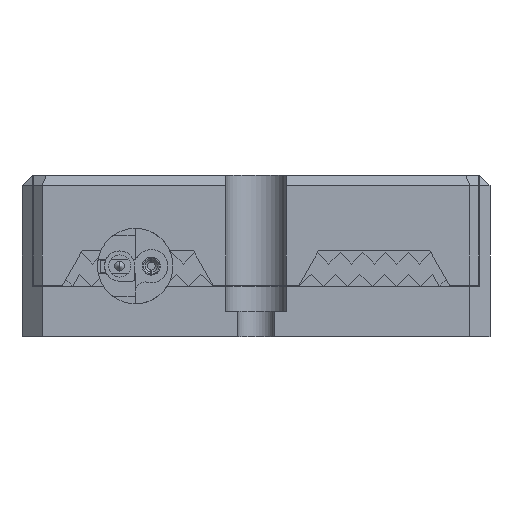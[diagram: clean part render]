
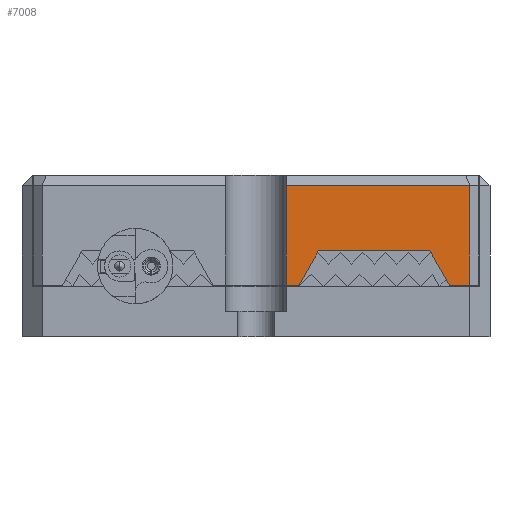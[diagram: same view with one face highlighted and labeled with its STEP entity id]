
A CAD part, left-side view. The second image highlights one B-rep face of the part: STEP entity #7008.
In plain terms, the highlighted planar face has unit normal (-1, 0, 0).
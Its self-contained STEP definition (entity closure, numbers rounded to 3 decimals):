
#92 = EDGE_CURVE ( 'NONE', #15718, #17021, #9071, .T. ) ;
#239 = ORIENTED_EDGE ( 'NONE', *, *, #92, .T. ) ;
#727 = CARTESIAN_POINT ( 'NONE',  ( -72.5, -3., 16. ) ) ;
#891 = CARTESIAN_POINT ( 'NONE',  ( -72.5, -1.8, 2.5 ) ) ;
#982 = CARTESIAN_POINT ( 'NONE',  ( -72.5, -3., 15. ) ) ;
#1153 = VERTEX_POINT ( 'NONE', #982 ) ;
#1302 = ORIENTED_EDGE ( 'NONE', *, *, #12374, .T. ) ;
#1472 = ORIENTED_EDGE ( 'NONE', *, *, #10375, .T. ) ;
#1758 = DIRECTION ( 'NONE',  ( 0., 0., -1. ) ) ;
#1822 = VECTOR ( 'NONE', #5044, 1000. ) ;
#1841 = LINE ( 'NONE', #3634, #10705 ) ;
#1867 = CARTESIAN_POINT ( 'NONE',  ( -72.5, -6.213, 8.5 ) ) ;
#2035 = VECTOR ( 'NONE', #7520, 1000. ) ;
#2047 = VECTOR ( 'NONE', #7790, 1000. ) ;
#2254 = LINE ( 'NONE', #6158, #2035 ) ;
#2577 = EDGE_CURVE ( 'NONE', #7836, #15718, #13040, .T. ) ;
#3313 = LINE ( 'NONE', #727, #10535 ) ;
#3634 = CARTESIAN_POINT ( 'NONE',  ( -72.5, -21.25, 2.5 ) ) ;
#3656 = FACE_OUTER_BOUND ( 'NONE', #14362, .T. ) ;
#3824 = DIRECTION ( 'NONE',  ( 1., 0., 0. ) ) ;
#4610 = CARTESIAN_POINT ( 'NONE',  ( -72.5, -3., 5.1 ) ) ;
#5044 = DIRECTION ( 'NONE',  ( 0., -0.5, 0.866 ) ) ;
#5128 = CARTESIAN_POINT ( 'NONE',  ( -72.5, -6.213, 8.5 ) ) ;
#5755 = EDGE_CURVE ( 'NONE', #11281, #5860, #1841, .T. ) ;
#5860 = VERTEX_POINT ( 'NONE', #6305 ) ;
#6069 = DIRECTION ( 'NONE',  ( 0., -0.5, -0.866 ) ) ;
#6158 = CARTESIAN_POINT ( 'NONE',  ( -72.5, 4.25, 5.1 ) ) ;
#6178 = VERTEX_POINT ( 'NONE', #11613 ) ;
#6305 = CARTESIAN_POINT ( 'NONE',  ( -72.5, -21.25, 5.1 ) ) ;
#6387 = VECTOR ( 'NONE', #6069, 1000. ) ;
#6428 = DIRECTION ( 'NONE',  ( 0., -1., 0. ) ) ;
#6494 = DIRECTION ( 'NONE',  ( 0., 1., 0. ) ) ;
#6552 = EDGE_CURVE ( 'NONE', #6178, #5860, #15453, .T. ) ;
#7008 = ADVANCED_FACE ( 'NONE', ( #3656 ), #12940, .F. ) ;
#7161 = ORIENTED_EDGE ( 'NONE', *, *, #6552, .T. ) ;
#7278 = DIRECTION ( 'NONE',  ( 0., 0., -1. ) ) ;
#7341 = EDGE_CURVE ( 'NONE', #11281, #1153, #10332, .T. ) ;
#7520 = DIRECTION ( 'NONE',  ( 0., -1., 0. ) ) ;
#7790 = DIRECTION ( 'NONE',  ( 0., -1., 0. ) ) ;
#7836 = VERTEX_POINT ( 'NONE', #12153 ) ;
#8279 = VECTOR ( 'NONE', #6428, 1000. ) ;
#8325 = LINE ( 'NONE', #14863, #6387 ) ;
#9071 = LINE ( 'NONE', #5128, #2047 ) ;
#9533 = ORIENTED_EDGE ( 'NONE', *, *, #5755, .F. ) ;
#9708 = ORIENTED_EDGE ( 'NONE', *, *, #7341, .T. ) ;
#10211 = VERTEX_POINT ( 'NONE', #4610 ) ;
#10332 = LINE ( 'NONE', #14038, #11865 ) ;
#10375 = EDGE_CURVE ( 'NONE', #10211, #7836, #2254, .T. ) ;
#10535 = VECTOR ( 'NONE', #7278, 1000. ) ;
#10705 = VECTOR ( 'NONE', #1758, 1000. ) ;
#11281 = VERTEX_POINT ( 'NONE', #15756 ) ;
#11613 = CARTESIAN_POINT ( 'NONE',  ( -72.5, -19.25, 5.1 ) ) ;
#11761 = CARTESIAN_POINT ( 'NONE',  ( -72.5, -4.25, 5.1 ) ) ;
#11865 = VECTOR ( 'NONE', #16882, 1000. ) ;
#12153 = CARTESIAN_POINT ( 'NONE',  ( -72.5, -4.25, 5.1 ) ) ;
#12374 = EDGE_CURVE ( 'NONE', #17021, #6178, #8325, .T. ) ;
#12940 = PLANE ( 'NONE',  #15114 ) ;
#12960 = CARTESIAN_POINT ( 'NONE',  ( -72.5, -19.25, 5.1 ) ) ;
#13040 = LINE ( 'NONE', #11761, #1822 ) ;
#14038 = CARTESIAN_POINT ( 'NONE',  ( -72.5, -1.8, 15. ) ) ;
#14362 = EDGE_LOOP ( 'NONE', ( #1302, #7161, #9533, #9708, #16905, #1472, #17019, #239 ) ) ;
#14863 = CARTESIAN_POINT ( 'NONE',  ( -72.5, -17.287, 8.5 ) ) ;
#14925 = EDGE_CURVE ( 'NONE', #1153, #10211, #3313, .T. ) ;
#15114 = AXIS2_PLACEMENT_3D ( 'NONE', #891, #3824, #6494 ) ;
#15453 = LINE ( 'NONE', #12960, #8279 ) ;
#15718 = VERTEX_POINT ( 'NONE', #1867 ) ;
#15756 = CARTESIAN_POINT ( 'NONE',  ( -72.5, -21.25, 15. ) ) ;
#16271 = CARTESIAN_POINT ( 'NONE',  ( -72.5, -17.287, 8.5 ) ) ;
#16882 = DIRECTION ( 'NONE',  ( 0., 1., 0. ) ) ;
#16905 = ORIENTED_EDGE ( 'NONE', *, *, #14925, .T. ) ;
#17019 = ORIENTED_EDGE ( 'NONE', *, *, #2577, .T. ) ;
#17021 = VERTEX_POINT ( 'NONE', #16271 ) ;
